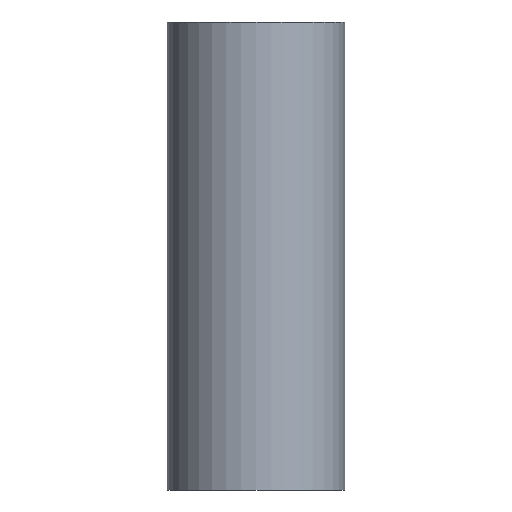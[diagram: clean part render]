
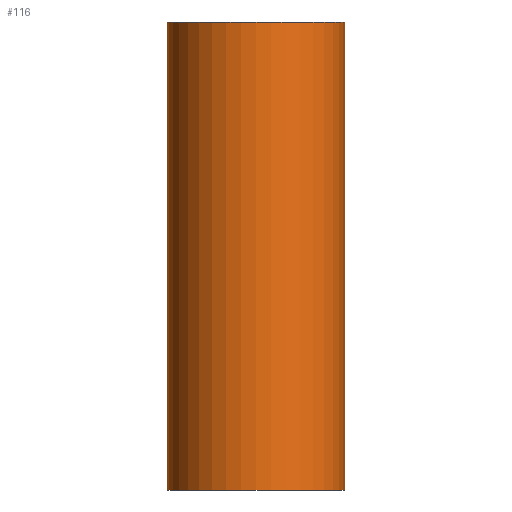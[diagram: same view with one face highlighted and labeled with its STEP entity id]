
A CAD part, left-side view. The second image highlights one B-rep face of the part: STEP entity #116.
In plain terms, the highlighted cylindrical face has radius 125 mm (diameter 250 mm), a full revolution.
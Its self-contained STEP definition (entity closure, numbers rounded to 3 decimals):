
#23=FACE_BOUND('',#51,.T.);
#24=FACE_BOUND('',#52,.T.);
#30=CIRCLE('',#151,125.);
#31=CIRCLE('',#153,125.);
#37=FACE_OUTER_BOUND('',#50,.T.);
#50=EDGE_LOOP('',(#93));
#51=EDGE_LOOP('',(#94,#95));
#52=EDGE_LOOP('',(#96));
#57=ELLIPSE('',#146,326.641,125.);
#58=ELLIPSE('',#147,135.299,125.);
#64=VERTEX_POINT('',#205);
#65=VERTEX_POINT('',#206);
#67=VERTEX_POINT('',#213);
#68=VERTEX_POINT('',#216);
#74=EDGE_CURVE('',#64,#65,#57,.T.);
#75=EDGE_CURVE('',#65,#64,#58,.T.);
#77=EDGE_CURVE('',#67,#67,#30,.T.);
#78=EDGE_CURVE('',#68,#68,#31,.T.);
#93=ORIENTED_EDGE('',*,*,#77,.T.);
#94=ORIENTED_EDGE('',*,*,#75,.T.);
#95=ORIENTED_EDGE('',*,*,#74,.T.);
#96=ORIENTED_EDGE('',*,*,#78,.F.);
#102=CYLINDRICAL_SURFACE('',#152,125.);
#116=ADVANCED_FACE('',(#37,#23,#24),#102,.T.);
#146=AXIS2_PLACEMENT_3D('',#207,#173,#174);
#147=AXIS2_PLACEMENT_3D('',#208,#175,#176);
#151=AXIS2_PLACEMENT_3D('',#214,#183,#184);
#152=AXIS2_PLACEMENT_3D('',#215,#185,#186);
#153=AXIS2_PLACEMENT_3D('',#217,#187,#188);
#173=DIRECTION('center_axis',(-0.924,0.,0.383));
#174=DIRECTION('ref_axis',(-0.383,0.,-0.924));
#175=DIRECTION('center_axis',(-0.383,0.,-0.924));
#176=DIRECTION('ref_axis',(0.924,0.,-0.383));
#183=DIRECTION('center_axis',(0.,0.,-1.));
#184=DIRECTION('ref_axis',(1.,0.,0.));
#185=DIRECTION('center_axis',(0.,0.,-1.));
#186=DIRECTION('ref_axis',(-1.,0.,0.));
#187=DIRECTION('center_axis',(0.,0.,-1.));
#188=DIRECTION('ref_axis',(1.,0.,0.));
#205=CARTESIAN_POINT('',(0.,-125.,220.));
#206=CARTESIAN_POINT('',(0.,125.,220.));
#207=CARTESIAN_POINT('Origin',(0.,0.,220.));
#208=CARTESIAN_POINT('Origin',(0.,0.,220.));
#213=CARTESIAN_POINT('',(-125.,0.,660.));
#214=CARTESIAN_POINT('Origin',(0.,0.,660.));
#215=CARTESIAN_POINT('Origin',(0.,0.,330.));
#216=CARTESIAN_POINT('',(-125.,0.,0.));
#217=CARTESIAN_POINT('Origin',(0.,0.,0.));
